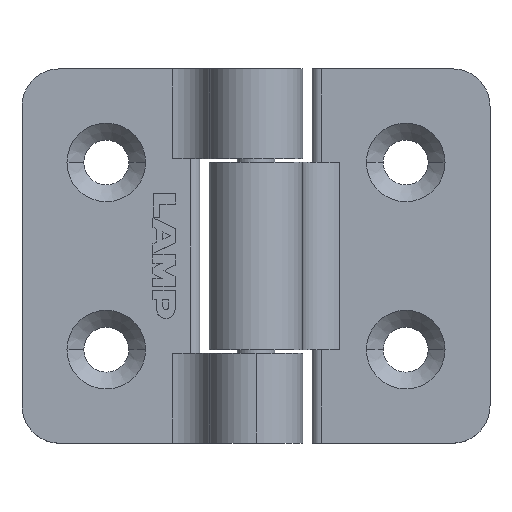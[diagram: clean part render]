
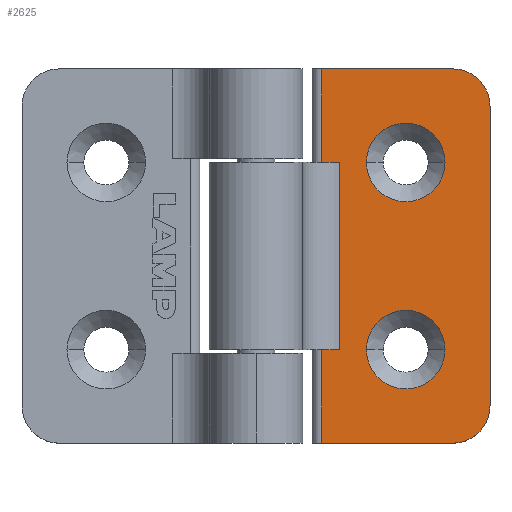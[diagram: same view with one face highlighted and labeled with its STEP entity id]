
A CAD part, top view. The second image highlights one B-rep face of the part: STEP entity #2625.
In plain terms, the highlighted planar face has unit normal (0, 0, 1).
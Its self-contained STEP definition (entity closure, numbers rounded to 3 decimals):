
#94 = CARTESIAN_POINT ( 'NONE',  ( 3.5, 0., 2. ) ) ;
#184 = FACE_OUTER_BOUND ( 'NONE', #4030, .T. ) ;
#210 = EDGE_CURVE ( 'NONE', #595, #2622, #2918, .T. ) ;
#236 = CARTESIAN_POINT ( 'NONE',  ( 8., 10., 2. ) ) ;
#250 = VERTEX_POINT ( 'NONE', #1158 ) ;
#360 = CARTESIAN_POINT ( 'NONE',  ( 8., -5., 2. ) ) ;
#368 = AXIS2_PLACEMENT_3D ( 'NONE', #940, #3367, #1279 ) ;
#395 = ORIENTED_EDGE ( 'NONE', *, *, #2288, .T. ) ;
#480 = VECTOR ( 'NONE', #1881, 1000. ) ;
#502 = ORIENTED_EDGE ( 'NONE', *, *, #1160, .T. ) ;
#523 = AXIS2_PLACEMENT_3D ( 'NONE', #1665, #4093, #2011 ) ;
#576 = CIRCLE ( 'NONE', #368, 2. ) ;
#595 = VERTEX_POINT ( 'NONE', #3915 ) ;
#659 = DIRECTION ( 'NONE',  ( 1., 0., 0. ) ) ;
#718 = DIRECTION ( 'NONE',  ( 1., 0., 0. ) ) ;
#824 = DIRECTION ( 'NONE',  ( 0., -1., 0. ) ) ;
#849 = CIRCLE ( 'NONE', #3829, 2.1 ) ;
#901 = FACE_BOUND ( 'NONE', #2483, .T. ) ;
#906 = EDGE_LOOP ( 'NONE', ( #4073, #1724 ) ) ;
#919 = VERTEX_POINT ( 'NONE', #1574 ) ;
#940 = CARTESIAN_POINT ( 'NONE',  ( 10.5, -8., 2. ) ) ;
#974 = CARTESIAN_POINT ( 'NONE',  ( 10.5, 10., 2. ) ) ;
#986 = DIRECTION ( 'NONE',  ( 0., 1., 0. ) ) ;
#1000 = EDGE_CURVE ( 'NONE', #1791, #595, #3299, .T. ) ;
#1111 = CIRCLE ( 'NONE', #523, 2. ) ;
#1158 = CARTESIAN_POINT ( 'NONE',  ( 4.472, -5., 2. ) ) ;
#1160 = EDGE_CURVE ( 'NONE', #250, #2181, #2867, .T. ) ;
#1177 = LINE ( 'NONE', #3973, #480 ) ;
#1190 = DIRECTION ( 'NONE',  ( 0., 0., -1. ) ) ;
#1206 = CARTESIAN_POINT ( 'NONE',  ( 8., 5., 2. ) ) ;
#1214 = AXIS2_PLACEMENT_3D ( 'NONE', #1682, #2734, #659 ) ;
#1244 = EDGE_CURVE ( 'NONE', #250, #3129, #3238, .T. ) ;
#1279 = DIRECTION ( 'NONE',  ( -1., 0., 0. ) ) ;
#1312 = ORIENTED_EDGE ( 'NONE', *, *, #1000, .T. ) ;
#1325 = EDGE_CURVE ( 'NONE', #2622, #3129, #1177, .T. ) ;
#1354 = VERTEX_POINT ( 'NONE', #2587 ) ;
#1378 = DIRECTION ( 'NONE',  ( 1., 0., 0. ) ) ;
#1433 = LINE ( 'NONE', #3940, #1541 ) ;
#1541 = VECTOR ( 'NONE', #824, 1000. ) ;
#1553 = DIRECTION ( 'NONE',  ( 1., 0., 0. ) ) ;
#1574 = CARTESIAN_POINT ( 'NONE',  ( 10.5, -10., 2. ) ) ;
#1636 = CARTESIAN_POINT ( 'NONE',  ( 8., -5., 2. ) ) ;
#1643 = CIRCLE ( 'NONE', #2492, 2.1 ) ;
#1665 = CARTESIAN_POINT ( 'NONE',  ( 10.5, 8., 2. ) ) ;
#1666 = CARTESIAN_POINT ( 'NONE',  ( 10.1, -5., 2. ) ) ;
#1682 = CARTESIAN_POINT ( 'NONE',  ( 3.5, -10., 2. ) ) ;
#1699 = CARTESIAN_POINT ( 'NONE',  ( 10.1, 5., 2. ) ) ;
#1724 = ORIENTED_EDGE ( 'NONE', *, *, #3019, .T. ) ;
#1771 = ORIENTED_EDGE ( 'NONE', *, *, #1244, .F. ) ;
#1783 = VERTEX_POINT ( 'NONE', #1666 ) ;
#1791 = VERTEX_POINT ( 'NONE', #974 ) ;
#1817 = EDGE_CURVE ( 'NONE', #1783, #2932, #2921, .T. ) ;
#1825 = CARTESIAN_POINT ( 'NONE',  ( 4.472, 0., 2. ) ) ;
#1873 = ORIENTED_EDGE ( 'NONE', *, *, #1817, .T. ) ;
#1881 = DIRECTION ( 'NONE',  ( 1., 0., 0. ) ) ;
#1976 = DIRECTION ( 'NONE',  ( 1., 0., 0. ) ) ;
#2011 = DIRECTION ( 'NONE',  ( -1., 0., 0. ) ) ;
#2022 = CARTESIAN_POINT ( 'NONE',  ( 3.5, 5., 2. ) ) ;
#2181 = VERTEX_POINT ( 'NONE', #3325 ) ;
#2228 = ORIENTED_EDGE ( 'NONE', *, *, #3337, .T. ) ;
#2245 = VECTOR ( 'NONE', #1378, 1000. ) ;
#2288 = EDGE_CURVE ( 'NONE', #919, #3646, #576, .T. ) ;
#2310 = VECTOR ( 'NONE', #3577, 1000. ) ;
#2462 = EDGE_CURVE ( 'NONE', #2993, #919, #3393, .T. ) ;
#2466 = CARTESIAN_POINT ( 'NONE',  ( 5.9, 5., 2. ) ) ;
#2483 = EDGE_LOOP ( 'NONE', ( #1873, #2228 ) ) ;
#2492 = AXIS2_PLACEMENT_3D ( 'NONE', #3267, #1190, #3619 ) ;
#2532 = ORIENTED_EDGE ( 'NONE', *, *, #2565, .T. ) ;
#2565 = EDGE_CURVE ( 'NONE', #1354, #1791, #1111, .T. ) ;
#2587 = CARTESIAN_POINT ( 'NONE',  ( 12.5, 8., 2. ) ) ;
#2622 = VERTEX_POINT ( 'NONE', #2022 ) ;
#2625 = ADVANCED_FACE ( 'NONE', ( #4485, #901, #184 ), #4471, .T. ) ;
#2734 = DIRECTION ( 'NONE',  ( 0., 0., 1. ) ) ;
#2755 = AXIS2_PLACEMENT_3D ( 'NONE', #1206, #3636, #1553 ) ;
#2794 = DIRECTION ( 'NONE',  ( 0., 0., -1. ) ) ;
#2838 = CARTESIAN_POINT ( 'NONE',  ( 12.5, -8., 2. ) ) ;
#2839 = CARTESIAN_POINT ( 'NONE',  ( 8., -5., 2. ) ) ;
#2867 = LINE ( 'NONE', #2839, #4388 ) ;
#2918 = LINE ( 'NONE', #94, #3830 ) ;
#2921 = CIRCLE ( 'NONE', #3339, 2.1 ) ;
#2932 = VERTEX_POINT ( 'NONE', #3579 ) ;
#2963 = CIRCLE ( 'NONE', #2755, 2.1 ) ;
#2968 = EDGE_CURVE ( 'NONE', #2181, #2993, #1433, .T. ) ;
#2993 = VERTEX_POINT ( 'NONE', #4290 ) ;
#3019 = EDGE_CURVE ( 'NONE', #4475, #4326, #2963, .T. ) ;
#3020 = DIRECTION ( 'NONE',  ( -1., 0., 0. ) ) ;
#3129 = VERTEX_POINT ( 'NONE', #3349 ) ;
#3182 = DIRECTION ( 'NONE',  ( -1., 0., 0. ) ) ;
#3205 = DIRECTION ( 'NONE',  ( 0., -1., 0. ) ) ;
#3238 = LINE ( 'NONE', #1825, #2310 ) ;
#3267 = CARTESIAN_POINT ( 'NONE',  ( 8., 5., 2. ) ) ;
#3299 = LINE ( 'NONE', #236, #4111 ) ;
#3325 = CARTESIAN_POINT ( 'NONE',  ( 3.5, -5., 2. ) ) ;
#3337 = EDGE_CURVE ( 'NONE', #2932, #1783, #849, .T. ) ;
#3339 = AXIS2_PLACEMENT_3D ( 'NONE', #360, #2794, #718 ) ;
#3349 = CARTESIAN_POINT ( 'NONE',  ( 4.472, 5., 2. ) ) ;
#3367 = DIRECTION ( 'NONE',  ( 0., 0., 1. ) ) ;
#3393 = LINE ( 'NONE', #3798, #2245 ) ;
#3436 = EDGE_CURVE ( 'NONE', #3646, #1354, #4091, .T. ) ;
#3523 = ORIENTED_EDGE ( 'NONE', *, *, #2462, .T. ) ;
#3577 = DIRECTION ( 'NONE',  ( 0., 1., 0. ) ) ;
#3579 = CARTESIAN_POINT ( 'NONE',  ( 5.9, -5., 2. ) ) ;
#3619 = DIRECTION ( 'NONE',  ( 1., 0., 0. ) ) ;
#3636 = DIRECTION ( 'NONE',  ( 0., 0., -1. ) ) ;
#3646 = VERTEX_POINT ( 'NONE', #2838 ) ;
#3759 = CARTESIAN_POINT ( 'NONE',  ( 12.5, 0., 2. ) ) ;
#3794 = EDGE_CURVE ( 'NONE', #4326, #4475, #1643, .T. ) ;
#3798 = CARTESIAN_POINT ( 'NONE',  ( 8., -10., 2. ) ) ;
#3829 = AXIS2_PLACEMENT_3D ( 'NONE', #1636, #4064, #1976 ) ;
#3830 = VECTOR ( 'NONE', #3205, 1000. ) ;
#3915 = CARTESIAN_POINT ( 'NONE',  ( 3.5, 10., 2. ) ) ;
#3940 = CARTESIAN_POINT ( 'NONE',  ( 3.5, 0., 2. ) ) ;
#3965 = ORIENTED_EDGE ( 'NONE', *, *, #3436, .T. ) ;
#3968 = ORIENTED_EDGE ( 'NONE', *, *, #210, .T. ) ;
#3973 = CARTESIAN_POINT ( 'NONE',  ( 0.986, 5., 2. ) ) ;
#3987 = VECTOR ( 'NONE', #986, 1000. ) ;
#4030 = EDGE_LOOP ( 'NONE', ( #4399, #1771, #502, #4066, #3523, #395, #3965, #2532, #1312, #3968 ) ) ;
#4064 = DIRECTION ( 'NONE',  ( 0., 0., -1. ) ) ;
#4066 = ORIENTED_EDGE ( 'NONE', *, *, #2968, .T. ) ;
#4073 = ORIENTED_EDGE ( 'NONE', *, *, #3794, .T. ) ;
#4091 = LINE ( 'NONE', #3759, #3987 ) ;
#4093 = DIRECTION ( 'NONE',  ( 0., 0., 1. ) ) ;
#4111 = VECTOR ( 'NONE', #3020, 1000. ) ;
#4290 = CARTESIAN_POINT ( 'NONE',  ( 3.5, -10., 2. ) ) ;
#4326 = VERTEX_POINT ( 'NONE', #1699 ) ;
#4388 = VECTOR ( 'NONE', #3182, 1000. ) ;
#4399 = ORIENTED_EDGE ( 'NONE', *, *, #1325, .T. ) ;
#4471 = PLANE ( 'NONE',  #1214 ) ;
#4475 = VERTEX_POINT ( 'NONE', #2466 ) ;
#4485 = FACE_BOUND ( 'NONE', #906, .T. ) ;
